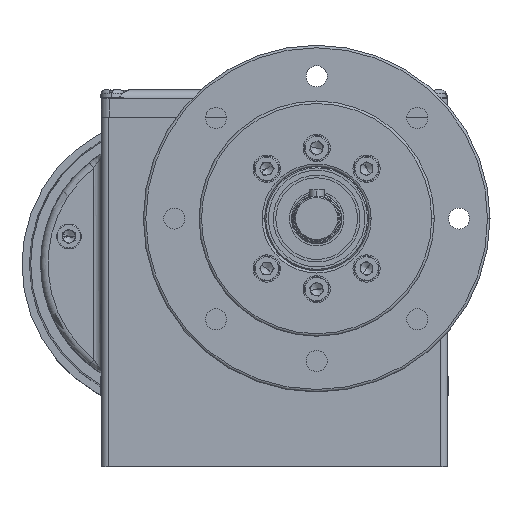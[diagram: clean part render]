
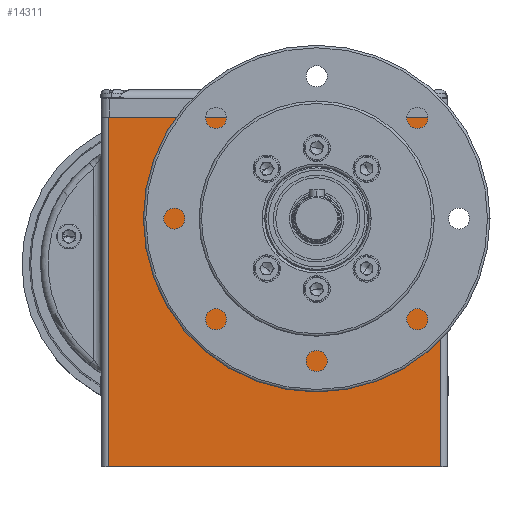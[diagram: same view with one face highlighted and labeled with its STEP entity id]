
A CAD part, top view. The second image highlights one B-rep face of the part: STEP entity #14311.
In plain terms, the highlighted planar face has unit normal (0, 0, 1).
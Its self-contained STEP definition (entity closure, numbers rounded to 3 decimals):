
#316 = AXIS2_PLACEMENT_3D ( 'NONE', #6417, #2557, #2742 ) ;
#599 = CIRCLE ( 'NONE', #7155, 38.5 ) ;
#645 = CARTESIAN_POINT ( 'NONE',  ( 97.5, 18., 40.25 ) ) ;
#738 = LINE ( 'NONE', #6715, #1360 ) ;
#811 = DIRECTION ( 'NONE',  ( -1., 0., 0. ) ) ;
#989 = DIRECTION ( 'NONE',  ( -1., 0., 0. ) ) ;
#1140 = VECTOR ( 'NONE', #811, 1000. ) ;
#1360 = VECTOR ( 'NONE', #13490, 1000. ) ;
#1826 = EDGE_CURVE ( 'NONE', #8841, #14217, #599, .T. ) ;
#1986 = CARTESIAN_POINT ( 'NONE',  ( 59., 18., 40.25 ) ) ;
#2475 = FACE_OUTER_BOUND ( 'NONE', #17516, .T. ) ;
#2557 = DIRECTION ( 'NONE',  ( 0., 0., 1. ) ) ;
#2616 = VECTOR ( 'NONE', #18206, 1000. ) ;
#2742 = DIRECTION ( 'NONE',  ( 1., 0., 0. ) ) ;
#2817 = VERTEX_POINT ( 'NONE', #16268 ) ;
#2947 = DIRECTION ( 'NONE',  ( 0., 0., 1. ) ) ;
#3094 = ORIENTED_EDGE ( 'NONE', *, *, #5163, .T. ) ;
#3177 = VECTOR ( 'NONE', #12819, 1000. ) ;
#3397 = DIRECTION ( 'NONE',  ( 1., 0., 0. ) ) ;
#4313 = VERTEX_POINT ( 'NONE', #4925 ) ;
#4925 = CARTESIAN_POINT ( 'NONE',  ( 109., 59., 40.25 ) ) ;
#5163 = EDGE_CURVE ( 'NONE', #12300, #2817, #12213, .T. ) ;
#5313 = FACE_BOUND ( 'NONE', #16710, .T. ) ;
#5772 = ORIENTED_EDGE ( 'NONE', *, *, #11976, .T. ) ;
#6168 = EDGE_CURVE ( 'NONE', #14217, #8841, #7172, .T. ) ;
#6417 = CARTESIAN_POINT ( 'NONE',  ( 59., 18., 40.25 ) ) ;
#6715 = CARTESIAN_POINT ( 'NONE',  ( 109., 60.5, 40.25 ) ) ;
#6895 = ORIENTED_EDGE ( 'NONE', *, *, #6168, .F. ) ;
#7155 = AXIS2_PLACEMENT_3D ( 'NONE', #1986, #2947, #3397 ) ;
#7172 = CIRCLE ( 'NONE', #316, 38.5 ) ;
#7292 = EDGE_CURVE ( 'NONE', #4313, #12300, #13559, .T. ) ;
#7817 = PLANE ( 'NONE',  #10876 ) ;
#8750 = EDGE_CURVE ( 'NONE', #2817, #9551, #17345, .T. ) ;
#8841 = VERTEX_POINT ( 'NONE', #9299 ) ;
#9007 = ORIENTED_EDGE ( 'NONE', *, *, #1826, .F. ) ;
#9299 = CARTESIAN_POINT ( 'NONE',  ( 20.5, 18., 40.25 ) ) ;
#9551 = VERTEX_POINT ( 'NONE', #10313 ) ;
#10278 = ORIENTED_EDGE ( 'NONE', *, *, #8750, .T. ) ;
#10313 = CARTESIAN_POINT ( 'NONE',  ( 109., -82., 40.25 ) ) ;
#10876 = AXIS2_PLACEMENT_3D ( 'NONE', #12182, #12255, #989 ) ;
#11976 = EDGE_CURVE ( 'NONE', #9551, #4313, #738, .T. ) ;
#12182 = CARTESIAN_POINT ( 'NONE',  ( -28., 60.5, 40.25 ) ) ;
#12213 = LINE ( 'NONE', #12384, #2616 ) ;
#12255 = DIRECTION ( 'NONE',  ( 0., 0., -1. ) ) ;
#12300 = VERTEX_POINT ( 'NONE', #15367 ) ;
#12384 = CARTESIAN_POINT ( 'NONE',  ( -25., 60.5, 40.25 ) ) ;
#12819 = DIRECTION ( 'NONE',  ( 1., 0., 0. ) ) ;
#13490 = DIRECTION ( 'NONE',  ( 0., 1., 0. ) ) ;
#13559 = LINE ( 'NONE', #14931, #1140 ) ;
#14217 = VERTEX_POINT ( 'NONE', #645 ) ;
#14311 = ADVANCED_FACE ( 'NONE', ( #5313, #2475 ), #7817, .F. ) ;
#14489 = CARTESIAN_POINT ( 'NONE',  ( -45.5, -82., 40.25 ) ) ;
#14931 = CARTESIAN_POINT ( 'NONE',  ( -25., 59., 40.25 ) ) ;
#15367 = CARTESIAN_POINT ( 'NONE',  ( -25., 59., 40.25 ) ) ;
#16268 = CARTESIAN_POINT ( 'NONE',  ( -25., -82., 40.25 ) ) ;
#16710 = EDGE_LOOP ( 'NONE', ( #6895, #9007 ) ) ;
#17345 = LINE ( 'NONE', #14489, #3177 ) ;
#17516 = EDGE_LOOP ( 'NONE', ( #17772, #3094, #10278, #5772 ) ) ;
#17772 = ORIENTED_EDGE ( 'NONE', *, *, #7292, .T. ) ;
#18206 = DIRECTION ( 'NONE',  ( 0., -1., 0. ) ) ;
